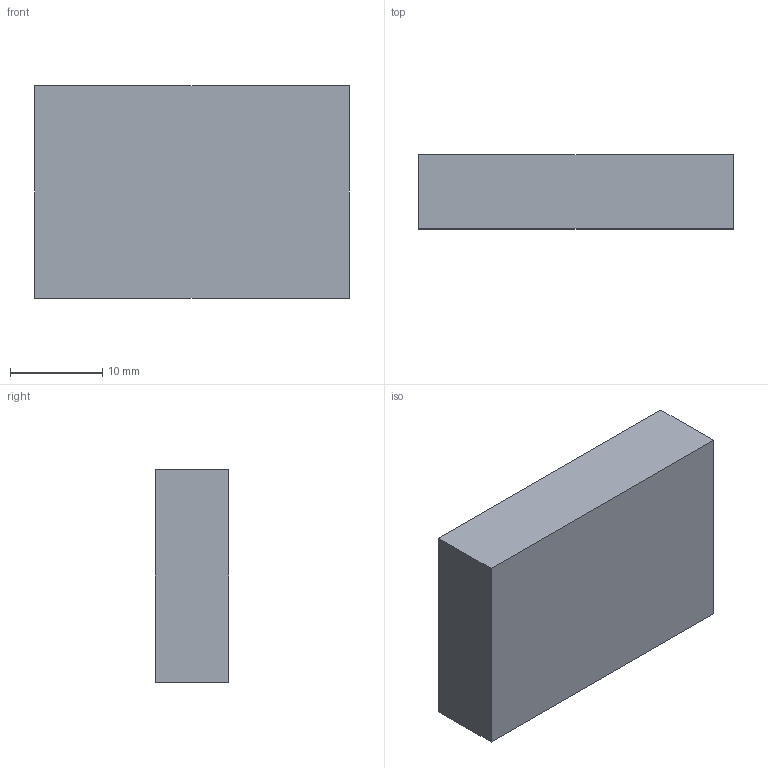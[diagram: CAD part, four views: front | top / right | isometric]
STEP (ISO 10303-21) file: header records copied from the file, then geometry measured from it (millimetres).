
FILE_DESCRIPTION(('Open CASCADE Model'),'2;1');
FILE_NAME('Open CASCADE Shape Model','2026-10-04T02:31:44',('Author'),( 'Open CASCADE'),'Open CASCADE STEP processor 8.0','Open CASCADE 8.0' ,'Unknown');
FILE_SCHEMA(('AUTOMOTIVE_DESIGN { 1 0 10303 214 1 1 1 1 }'));
Length unit declared in the file: millimetre
Products named in the file (1): Open CASCADE STEP translator 8.0 323
Bounding box: 34 x 8 x 23 mm (x, y, z)
Volume: 6256 mm3; surface area: 2476 mm2
Topology: 1 solids, 1 shells, 6 faces, 12 edges, 8 vertices
Faces by surface type: plane 6
Entity records: 322 total; most frequent: CARTESIAN_POINT 51, DIRECTION 50, LINE 36, VECTOR 36, ORIENTED_EDGE 24, PCURVE 24, DEFINITIONAL_REPRESENTATION 24, EDGE_CURVE 12
